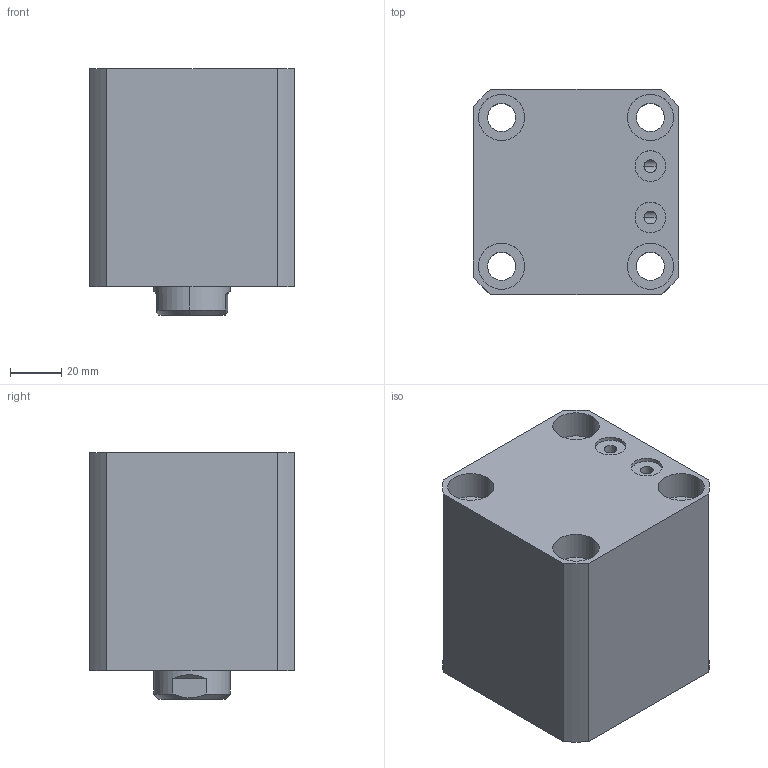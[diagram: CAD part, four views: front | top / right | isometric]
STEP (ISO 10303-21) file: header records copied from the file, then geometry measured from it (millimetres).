
FILE_DESCRIPTION (( 'STEP AP203' ), '1' );
FILE_NAME ('CHTB-SDMB50-25N.STEP', '2018-05-19T03:47:33', ( '' ), ( '' ), 'SwSTEP 2.0', 'SolidWorks 2015', '' );
FILE_SCHEMA (( 'CONFIG_CONTROL_DESIGN' ));
Length unit declared in the file: millimetre
Products named in the file (5): 活塞杆SDMB50-20N; CHTB-SDMB50-25N; 掛极SDMB50-25N; M6; CHTM-SDMA50QG
Assembly tree (5 placements, depth 2):
  CHTB-SDMB50-25N
    掛极SDMB50-25N
    活塞杆SDMB50-20N
    CHTM-SDMA50QG
    M6  x2
Bounding box: 80 x 80 x 96 mm (x, y, z)
Volume: 451427.1 mm3; surface area: 97061.6 mm2
Topology: 5 solids, 5 shells, 263 faces, 693 edges, 458 vertices
Faces by surface type: cylinder 135, plane 55, cone 31, bspline 26, torus 16
Entity records: 13963 total; most frequent: CARTESIAN_POINT 8102, ORIENTED_EDGE 1188, DIRECTION 1016, EDGE_CURVE 594, AXIS2_PLACEMENT_3D 416, VERTEX_POINT 397, EDGE_LOOP 269, ADVANCED_FACE 228
